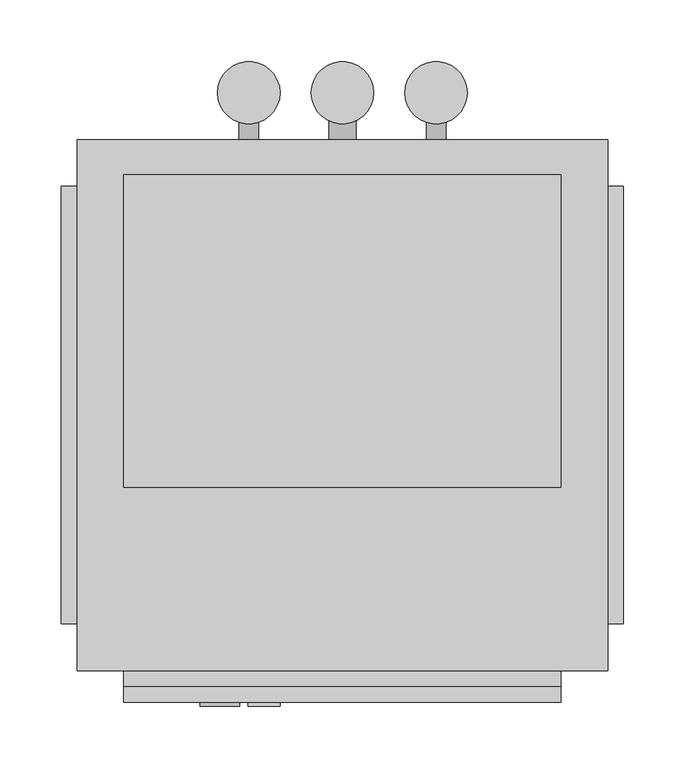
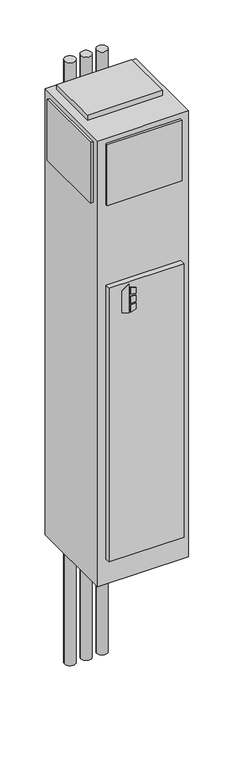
"""IFC4 building model written with IfcOpenShell, lengths in millimetres: proxy geometry, Concealed_Universal_Modular_Fan_Coil_Unit_-_MUY_-_IEC_-_2-Pipe_Cool-EHeat_-_WithRisers_2022 : Size 03 - 277v/60Hz/1Ph - 4 Row 3.0kW."""

from ifc_helpers import new_model, si_unit, point, frame, frame_2d, origin, origin_with_axes, place, context, project, spatial, polyline, circle_curve, trimmed, segment, composite_curve, outline, extrude, source, transform, mapped, element, save


def mechanical_equipment_73c6bf10(model_context):
    return source(origin(), model_context, "Body", "SweptSolid", [
        extrude(outline(polyline([(1356.1480703, 252.4868862), (1346.2, 284.6602728), (1488.3709244, 284.6602728), (1465.3489183, 252.4868862), (1356.1480703, 252.4868862)])), frame((0.0, -215.9, 0.0), z_axis=(0.0, 1.0, 0.0), x_axis=(0.0, 0.0, 1.0)), (0.0, 0.0, 1.0), 3.175),
        extrude(outline(polyline([(1435.1473557, 291.4186058), (1431.9449632, 317.5), (1461.1738042, 317.5), (1469.2382193, 291.4186058), (1435.1473557, 291.4186058)])), frame((0.0, -215.9, 0.0), z_axis=(0.0, 1.0, 0.0), x_axis=(0.0, 0.0, 1.0)), (0.0, 0.0, 1.0), 3.175),
        extrude(outline(polyline([(1383.2838288, 317.5), (1379.6183279, 291.4186058), (1346.2, 291.4186058), (1354.8342372, 317.5), (1383.2838288, 317.5)])), frame((0.0, -215.9, 0.0), z_axis=(0.0, 1.0, 0.0), x_axis=(0.0, 0.0, 1.0)), (0.0, 0.0, 1.0), 3.175),
        extrude(outline(polyline([(1422.5989903, 317.5), (1424.8808166, 291.4186058), (1388.9432681, 291.4186058), (1391.6845331, 317.5), (1422.5989903, 317.5)])), frame((0.0, -215.9, 0.0), z_axis=(0.0, 1.0, 0.0), x_axis=(0.0, 0.0, 1.0)), (0.0, 0.0, 1.0), 3.175),
        extrude(outline(composite_curve([segment(trimmed(circle_curve(frame_2d((292.1, 282.575)), 25.4), [point((266.7, 282.575))], [point((317.5, 282.575))], False, "CARTESIAN"), True, "CONTINUOUS"), segment(trimmed(circle_curve(frame_2d((292.1, 282.575)), 25.4), [point((317.5, 282.575))], [point((266.7, 282.575))], False, "CARTESIAN"), True, "CONTINUOUS")], self_intersect=False)), frame((0.0, 0.0, -711.2), z_axis=(0.0, 0.0, 1.0), x_axis=(1.0, 0.0, 0.0)), (0.0, 0.0, 1.0), 3022.6),
        extrude(outline(composite_curve([segment(trimmed(circle_curve(frame_2d((368.3, 282.575)), 25.4), [point((342.9, 282.575))], [point((393.7, 282.575))], False, "CARTESIAN"), True, "CONTINUOUS"), segment(trimmed(circle_curve(frame_2d((368.3, 282.575)), 25.4), [point((393.7, 282.575))], [point((342.9, 282.575))], False, "CARTESIAN"), True, "CONTINUOUS")], self_intersect=False)), frame((0.0, 0.0, -711.2), z_axis=(0.0, 0.0, 1.0), x_axis=(1.0, 0.0, 0.0)), (0.0, 0.0, 1.0), 3022.6),
        extrude(outline(composite_curve([segment(trimmed(circle_curve(frame_2d((444.5, 282.575)), 25.4), [point((419.1, 282.575))], [point((469.9, 282.575))], False, "CARTESIAN"), True, "CONTINUOUS"), segment(trimmed(circle_curve(frame_2d((444.5, 282.575)), 25.4), [point((469.9, 282.575))], [point((419.1, 282.575))], False, "CARTESIAN"), True, "CONTINUOUS")], self_intersect=False)), frame((0.0, 0.0, -711.2), z_axis=(0.0, 0.0, 1.0), x_axis=(1.0, 0.0, 0.0)), (0.0, 0.0, 1.0), 3022.6),
        extrude(outline(composite_curve([segment(trimmed(circle_curve(frame_2d((990.6, 444.5)), 7.9375), [point((990.6, 436.5625))], [point((990.6, 452.4375))], False, "CARTESIAN"), True, "CONTINUOUS"), segment(trimmed(circle_curve(frame_2d((990.6, 444.5)), 7.9375), [point((990.6, 452.4375))], [point((990.6, 436.5625))], False, "CARTESIAN"), True, "CONTINUOUS")], self_intersect=False)), frame((0.0, 244.475, 0.0), z_axis=(0.0, 1.0, 0.0), x_axis=(0.0, 0.0, 1.0)), (0.0, 0.0, 1.0), 50.8),
        extrude(outline(composite_curve([segment(trimmed(circle_curve(frame_2d((990.6, 292.1)), 7.9375), [point((990.6, 284.1625))], [point((990.6, 300.0375))], False, "CARTESIAN"), True, "CONTINUOUS"), segment(trimmed(circle_curve(frame_2d((990.6, 292.1)), 7.9375), [point((990.6, 300.0375))], [point((990.6, 284.1625))], False, "CARTESIAN"), True, "CONTINUOUS")], self_intersect=False)), frame((0.0, 244.475, 0.0), z_axis=(0.0, 1.0, 0.0), x_axis=(0.0, 0.0, 1.0)), (0.0, 0.0, 1.0), 50.8),
        extrude(outline(composite_curve([segment(trimmed(circle_curve(frame_2d((76.2, 368.3)), 11.1125), [point((76.2, 357.1875))], [point((76.2, 379.4125))], False, "CARTESIAN"), True, "CONTINUOUS"), segment(trimmed(circle_curve(frame_2d((76.2, 368.3)), 11.1125), [point((76.2, 379.4125))], [point((76.2, 357.1875))], False, "CARTESIAN"), True, "CONTINUOUS")], self_intersect=False)), frame((0.0, 244.475, 0.0), z_axis=(0.0, 1.0, 0.0), x_axis=(0.0, 0.0, 1.0)), (0.0, 0.0, 1.0), 50.8),
        extrude(outline(polyline([(546.1, 215.9), (546.1, -38.1), (190.5, -38.1), (190.5, 215.9), (546.1, 215.9)])), frame((0.0, 0.0, 2235.2), z_axis=(0.0, 0.0, 1.0), x_axis=(1.0, 0.0, 0.0)), (0.0, 0.0, 1.0), 25.4),
        extrude(outline(polyline([(139.7, -149.225), (139.7, 206.375), (152.4, 206.375), (152.4, -149.225), (139.7, -149.225)])), frame((0.0, 0.0, 1905.0), z_axis=(0.0, 0.0, 1.0), x_axis=(1.0, 0.0, 0.0)), (0.0, 0.0, 1.0), 304.8),
        extrude(outline(polyline([(596.9, 206.375), (596.9, -149.225), (584.2, -149.225), (584.2, 206.375), (596.9, 206.375)])), frame((0.0, 0.0, 1905.0), z_axis=(0.0, 0.0, 1.0), x_axis=(1.0, 0.0, 0.0)), (0.0, 0.0, 1.0), 304.8),
        extrude(outline(polyline([(546.1, -200.025), (190.5, -200.025), (190.5, -187.325), (546.1, -187.325), (546.1, -200.025)])), frame((0.0, 0.0, 1905.0), z_axis=(0.0, 0.0, 1.0), x_axis=(1.0, 0.0, 0.0)), (0.0, 0.0, 1.0), 304.8),
        extrude(outline(polyline([(546.1, -212.725), (190.5, -212.725), (190.5, -187.325), (546.1, -187.325), (546.1, -212.725)])), frame((0.0, 0.0, 127.0), z_axis=(0.0, 0.0, 1.0), x_axis=(1.0, 0.0, 0.0)), (0.0, 0.0, 1.0), 1371.6),
        extrude(outline(polyline([(584.2, 244.475), (584.2, -187.325), (152.4, -187.325), (152.4, 244.475), (584.2, 244.475)])), origin_with_axes(), (0.0, 0.0, 1.0), 2235.2),
    ])


if __name__ == "__main__":
    model = new_model("IFC4")
    model_context = context("Model", 3, world=origin())
    ifc_project = project(units=[si_unit("LENGTHUNIT", "METRE", prefix="MILLI")], contexts=[model_context])
    site = spatial("IfcSite", under=ifc_project)
    building = spatial("IfcBuilding", under=site)
    placement = place(None, origin())
    mechanical_equipment_shape = mechanical_equipment_73c6bf10(model_context)
    element("IfcBuildingElementProxy", 1, Name="Concealed_Universal_Modular_Fan_Coil_Unit_-_MUY_-_IEC_-_2-Pipe_Cool-EHeat_-_WithRisers_2022 : Size 03 - 277v/60Hz/1Ph - 4 Row 3.0kW", ObjectType="Concealed_Universal_Modular_Fan_Coil_Unit_-_MUY_-_IEC_-_2-Pipe_Cool-EHeat_-_WithRisers_2022 : Size 03 - 277v/60Hz/1Ph - 4 Row 3.0kW", at=placement, inside=building, context=model_context, shape_type="MappedRepresentation", body=[
        mapped(mechanical_equipment_shape, transform((0.0, 0.0, 0.0), x_axis=(1.0, 0.0, 0.0), y_axis=(0.0, 1.0, 0.0), z_axis=(0.0, 0.0, 1.0))),
    ])
    save(model, "model.ifc")
